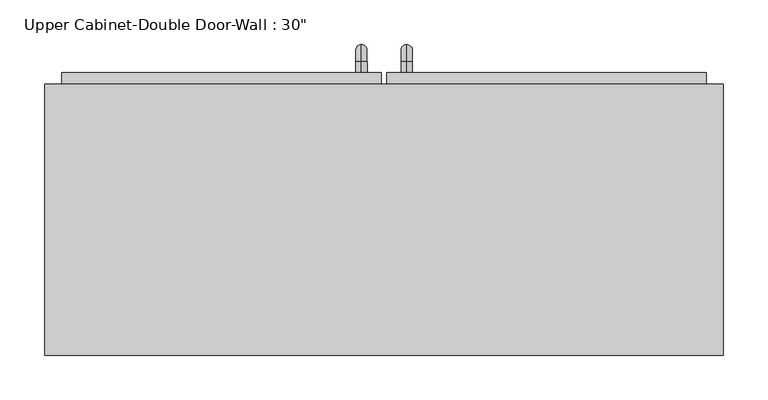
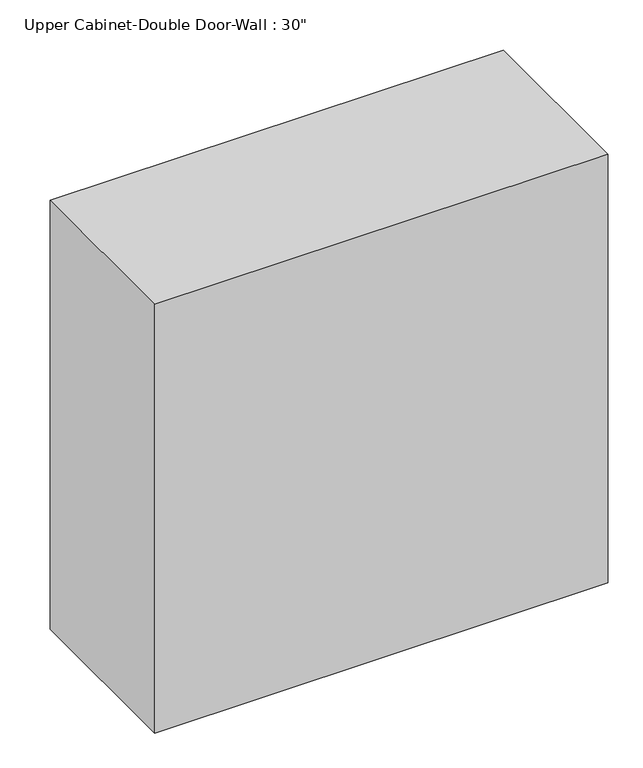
"""IFC4 building model written with IfcOpenShell, lengths in millimetres: furniture geometry."""

from ifc_helpers import new_model, si_unit, point, frame, origin, place, context, project, spatial, polyline, circle_curve, ellipse_curve, trimmed, outline, extrude, faceted_brep, source, transform, mapped, element, save
from ifc_brep_helpers import plane_surface, cylinder_surface, revolved_surface, advanced_brep


def furniture_b1f16c95(model_context):
    return source(origin(), model_context, "Body", "SolidModel", [
        faceted_brep([(-351.2288372, 57.15, 2133.6), (-351.2288372, 57.15, 1371.6), (410.7711628, 57.15, 1371.6), (410.7711628, 57.15, 2133.6), (-351.2288372, 361.95, 2133.6), (410.7711628, 361.95, 2133.6), (410.7711628, 361.95, 1371.6), (-351.2288372, 361.95, 1371.6), (-332.1788372, 361.95, 2114.55), (-332.1788372, 361.95, 1390.65), (391.7211628, 361.95, 1390.65), (391.7211628, 361.95, 2114.55), (391.7211628, 76.2, 2114.55), (-332.1788372, 76.2, 2114.55), (391.7211628, 76.2, 1390.65), (-332.1788372, 76.2, 1390.65)], [[[0, 1, 2, 3]], [[4, 5, 6, 7], [8, 9, 10, 11]], [[1, 0, 4, 7]], [[2, 1, 7, 6]], [[3, 2, 6, 5]], [[0, 3, 5, 4]], [[8, 11, 12, 13]], [[11, 10, 14, 12]], [[10, 9, 15, 14]], [[9, 8, 13, 15]], [[13, 12, 14, 15]]]),
        advanced_brep(
        [(55.1711628, 374.65, 1517.65), (55.1711628, 374.65, 1530.35), (55.1711628, 387.35, 1517.65), (55.1711628, 387.35, 1530.35), (55.1711628, 406.4, 1511.3), (55.1711628, 393.7, 1511.3), (55.1711628, 393.7, 1435.1), (55.1711628, 406.4, 1435.1), (55.1711628, 387.35, 1416.05), (55.1711628, 387.35, 1428.75), (55.1711628, 374.65, 1428.75), (55.1711628, 374.65, 1416.05)],
        [
            (0, 1, circle_curve(frame((55.1711628, 374.65, 1524.0), z_axis=(0.0, -1.0, 0.0), x_axis=(0.0, 0.0, -1.0)), 6.35)),
            (1, 0, circle_curve(frame((55.1711628, 374.65, 1524.0), z_axis=(0.0, -1.0, 0.0), x_axis=(0.0, 0.0, -1.0)), 6.35)),
            (0, 2),
            (2, 3, circle_curve(frame((55.1711628, 387.35, 1524.0), z_axis=(0.0, -1.0, 0.0), x_axis=(0.0, 0.0, -1.0)), 6.35)),
            (3, 1),
            (3, 2, circle_curve(frame((55.1711628, 387.35, 1524.0), z_axis=(0.0, -1.0, 0.0), x_axis=(0.0, 0.0, -1.0)), 6.35)),
            (4, 3, circle_curve(frame((55.1711628, 387.35, 1511.3), z_axis=(1.0, 0.0, 0.0), x_axis=(0.0, 0.0, 1.0)), 19.05)),
            (2, 5, circle_curve(frame((55.1711628, 387.35, 1511.3), z_axis=(-1.0, 0.0, 0.0), x_axis=(0.0, 0.0, 1.0)), 6.35)),
            (5, 4, circle_curve(frame((55.1711628, 400.05, 1511.3), z_axis=(0.0, 0.0, 1.0), x_axis=(0.0, -1.0, 0.0)), 6.35)),
            (4, 5, circle_curve(frame((55.1711628, 400.05, 1511.3), z_axis=(0.0, 0.0, 1.0), x_axis=(0.0, -1.0, 0.0)), 6.35)),
            (5, 6),
            (6, 7, circle_curve(frame((55.1711628, 400.05, 1435.1), z_axis=(0.0, 0.0, 1.0), x_axis=(0.0, -1.0, 0.0)), 6.35)),
            (7, 4),
            (7, 6, circle_curve(frame((55.1711628, 400.05, 1435.1), z_axis=(0.0, 0.0, 1.0), x_axis=(0.0, -1.0, 0.0)), 6.35)),
            (8, 7, circle_curve(frame((55.1711628, 387.35, 1435.1), z_axis=(1.0, 0.0, 0.0), x_axis=(0.0, 1.0, 0.0)), 19.05)),
            (6, 9, circle_curve(frame((55.1711628, 387.35, 1435.1), z_axis=(-1.0, 0.0, 0.0), x_axis=(0.0, 1.0, 0.0)), 6.35)),
            (9, 8, circle_curve(frame((55.1711628, 387.35, 1422.4), z_axis=(0.0, 1.0, 0.0), x_axis=(0.0, 0.0, 1.0)), 6.35)),
            (8, 9, circle_curve(frame((55.1711628, 387.35, 1422.4), z_axis=(0.0, 1.0, 0.0), x_axis=(0.0, 0.0, 1.0)), 6.35)),
            (10, 11, circle_curve(frame((55.1711628, 374.65, 1422.4), z_axis=(0.0, -1.0, 0.0), x_axis=(0.0, 0.0, 1.0)), 6.35)),
            (11, 10, circle_curve(frame((55.1711628, 374.65, 1422.4), z_axis=(0.0, -1.0, 0.0), x_axis=(0.0, 0.0, 1.0)), 6.35)),
            (9, 10),
            (11, 8),
        ],
        [
            plane_surface(frame((48.8211628, 374.65, 1524.0), z_axis=(0.0, -1.0, 0.0), x_axis=(0.0, 0.0, 1.0))),
            cylinder_surface(frame((55.1711628, 374.65, 1524.0), z_axis=(0.0, -1.0, 0.0), x_axis=(0.0, 0.0, -1.0)), 6.35),
            revolved_surface(trimmed(ellipse_curve(frame((55.1711628, 387.35, 1524.0), z_axis=(0.0, -1.0, 0.0), x_axis=(0.0, 0.0, -1.0)), 6.35, 6.35), [point((55.1711628, 387.35, 1517.65))], [point((55.1711628, 387.35, 1530.35))], True, "CARTESIAN"), (55.1711628, 387.35, 1511.3), (-1.0, 0.0, 0.0)),
            revolved_surface(trimmed(ellipse_curve(frame((55.1711628, 387.35, 1524.0), z_axis=(0.0, -1.0, 0.0), x_axis=(0.0, 0.0, -1.0)), 6.35, 6.35), [point((55.1711628, 387.35, 1530.35))], [point((55.1711628, 387.35, 1517.65))], True, "CARTESIAN"), (55.1711628, 387.35, 1511.3), (-1.0, 0.0, 0.0)),
            cylinder_surface(frame((55.1711628, 400.05, 1511.3), z_axis=(0.0, 0.0, 1.0), x_axis=(0.0, -1.0, 0.0)), 6.35),
            revolved_surface(trimmed(ellipse_curve(frame((55.1711628, 400.05, 1435.1), z_axis=(0.0, 0.0, 1.0), x_axis=(0.0, -1.0, 0.0)), 6.35, 6.35), [point((55.1711628, 393.7, 1435.1))], [point((55.1711628, 406.4, 1435.1))], True, "CARTESIAN"), (55.1711628, 387.35, 1435.1), (-1.0, 0.0, 0.0)),
            revolved_surface(trimmed(ellipse_curve(frame((55.1711628, 400.05, 1435.1), z_axis=(0.0, 0.0, 1.0), x_axis=(0.0, -1.0, 0.0)), 6.35, 6.35), [point((55.1711628, 406.4, 1435.1))], [point((55.1711628, 393.7, 1435.1))], True, "CARTESIAN"), (55.1711628, 387.35, 1435.1), (-1.0, 0.0, 0.0)),
            plane_surface(frame((48.8211628, 374.65, 1422.4), z_axis=(0.0, -1.0, 0.0), x_axis=(0.0, 0.0, -1.0))),
            cylinder_surface(frame((55.1711628, 387.35, 1422.4), z_axis=(0.0, 1.0, 0.0), x_axis=(0.0, 0.0, 1.0)), 6.35),
        ],
        [
            (0, [[1, 2]]),
            (1, [[-1, 3, 4, 5]]),
            (1, [[-2, -5, 6, -3]]),
            (2, [[7, -4, 8, 9]]),
            (3, [[-8, -6, -7, 10]]),
            (4, [[-9, 11, 12, 13]]),
            (4, [[-10, -13, 14, -11]]),
            (5, [[15, -12, 16, 17]]),
            (6, [[-16, -14, -15, 18]]),
            (7, [[19, 20]]),
            (8, [[-17, 21, -20, 22]]),
            (8, [[-18, -22, -19, -21]]),
        ],
    ),
        advanced_brep(
        [(4.3711628, 374.65, 1517.65), (4.3711628, 374.65, 1530.35), (4.3711628, 387.35, 1517.65), (4.3711628, 387.35, 1530.35), (4.3711628, 406.4, 1511.3), (4.3711628, 393.7, 1511.3), (4.3711628, 393.7, 1435.1), (4.3711628, 406.4, 1435.1), (4.3711628, 387.35, 1416.05), (4.3711628, 387.35, 1428.75), (4.3711628, 374.65, 1428.75), (4.3711628, 374.65, 1416.05)],
        [
            (0, 1, circle_curve(frame((4.3711628, 374.65, 1524.0), z_axis=(0.0, -1.0, 0.0), x_axis=(0.0, 0.0, 1.0)), 6.35)),
            (1, 0, circle_curve(frame((4.3711628, 374.65, 1524.0), z_axis=(0.0, -1.0, 0.0), x_axis=(0.0, 0.0, 1.0)), 6.35)),
            (0, 2),
            (2, 3, circle_curve(frame((4.3711628, 387.35, 1524.0), z_axis=(0.0, -1.0, 0.0), x_axis=(0.0, 0.0, 1.0)), 6.35)),
            (3, 1),
            (3, 2, circle_curve(frame((4.3711628, 387.35, 1524.0), z_axis=(0.0, -1.0, 0.0), x_axis=(0.0, 0.0, 1.0)), 6.35)),
            (4, 3, circle_curve(frame((4.3711628, 387.35, 1511.3), z_axis=(1.0, 0.0, 0.0), x_axis=(0.0, 0.0, 1.0)), 19.05)),
            (2, 5, circle_curve(frame((4.3711628, 387.35, 1511.3), z_axis=(-1.0, 0.0, 0.0), x_axis=(0.0, 0.0, 1.0)), 6.35)),
            (5, 4, circle_curve(frame((4.3711628, 400.05, 1511.3), z_axis=(0.0, 0.0, 1.0), x_axis=(0.0, 1.0, 0.0)), 6.35)),
            (4, 5, circle_curve(frame((4.3711628, 400.05, 1511.3), z_axis=(0.0, 0.0, 1.0), x_axis=(0.0, 1.0, 0.0)), 6.35)),
            (5, 6),
            (6, 7, circle_curve(frame((4.3711628, 400.05, 1435.1), z_axis=(0.0, 0.0, 1.0), x_axis=(0.0, 1.0, 0.0)), 6.35)),
            (7, 4),
            (7, 6, circle_curve(frame((4.3711628, 400.05, 1435.1), z_axis=(0.0, 0.0, 1.0), x_axis=(0.0, 1.0, 0.0)), 6.35)),
            (8, 7, circle_curve(frame((4.3711628, 387.35, 1435.1), z_axis=(1.0, 0.0, 0.0), x_axis=(0.0, 1.0, 0.0)), 19.05)),
            (6, 9, circle_curve(frame((4.3711628, 387.35, 1435.1), z_axis=(-1.0, 0.0, 0.0), x_axis=(0.0, 1.0, 0.0)), 6.35)),
            (9, 8, circle_curve(frame((4.3711628, 387.35, 1422.4), z_axis=(0.0, 1.0, 0.0), x_axis=(0.0, 0.0, -1.0)), 6.35)),
            (8, 9, circle_curve(frame((4.3711628, 387.35, 1422.4), z_axis=(0.0, 1.0, 0.0), x_axis=(0.0, 0.0, -1.0)), 6.35)),
            (10, 11, circle_curve(frame((4.3711628, 374.65, 1422.4), z_axis=(0.0, -1.0, 0.0), x_axis=(0.0, 0.0, -1.0)), 6.35)),
            (11, 10, circle_curve(frame((4.3711628, 374.65, 1422.4), z_axis=(0.0, -1.0, 0.0), x_axis=(0.0, 0.0, -1.0)), 6.35)),
            (9, 10),
            (11, 8),
        ],
        [
            plane_surface(frame((-1.9788372, 374.65, 1524.0), z_axis=(0.0, -1.0, 0.0), x_axis=(0.0, 0.0, 1.0))),
            cylinder_surface(frame((4.3711628, 374.65, 1524.0), z_axis=(0.0, -1.0, 0.0), x_axis=(0.0, 0.0, 1.0)), 6.35),
            revolved_surface(trimmed(ellipse_curve(frame((4.3711628, 387.35, 1524.0), z_axis=(0.0, -1.0, 0.0), x_axis=(0.0, 0.0, 1.0)), 6.35, 6.35), [point((4.3711628, 387.35, 1517.65))], [point((4.3711628, 387.35, 1530.35))], True, "CARTESIAN"), (4.3711628, 387.35, 1511.3), (-1.0, 0.0, 0.0)),
            revolved_surface(trimmed(ellipse_curve(frame((4.3711628, 387.35, 1524.0), z_axis=(0.0, -1.0, 0.0), x_axis=(0.0, 0.0, 1.0)), 6.35, 6.35), [point((4.3711628, 387.35, 1530.35))], [point((4.3711628, 387.35, 1517.65))], True, "CARTESIAN"), (4.3711628, 387.35, 1511.3), (-1.0, 0.0, 0.0)),
            cylinder_surface(frame((4.3711628, 400.05, 1511.3), z_axis=(0.0, 0.0, 1.0), x_axis=(0.0, 1.0, 0.0)), 6.35),
            revolved_surface(trimmed(ellipse_curve(frame((4.3711628, 400.05, 1435.1), z_axis=(0.0, 0.0, 1.0), x_axis=(0.0, 1.0, 0.0)), 6.35, 6.35), [point((4.3711628, 393.7, 1435.1))], [point((4.3711628, 406.4, 1435.1))], True, "CARTESIAN"), (4.3711628, 387.35, 1435.1), (-1.0, 0.0, 0.0)),
            revolved_surface(trimmed(ellipse_curve(frame((4.3711628, 400.05, 1435.1), z_axis=(0.0, 0.0, 1.0), x_axis=(0.0, 1.0, 0.0)), 6.35, 6.35), [point((4.3711628, 406.4, 1435.1))], [point((4.3711628, 393.7, 1435.1))], True, "CARTESIAN"), (4.3711628, 387.35, 1435.1), (-1.0, 0.0, 0.0)),
            plane_surface(frame((-1.9788372, 374.65, 1422.4), z_axis=(0.0, -1.0, 0.0), x_axis=(0.0, 0.0, -1.0))),
            cylinder_surface(frame((4.3711628, 387.35, 1422.4), z_axis=(0.0, 1.0, 0.0), x_axis=(0.0, 0.0, -1.0)), 6.35),
        ],
        [
            (0, [[1, 2]]),
            (1, [[-1, 3, 4, 5]]),
            (1, [[-2, -5, 6, -3]]),
            (2, [[7, -4, 8, 9]]),
            (3, [[-8, -6, -7, 10]]),
            (4, [[-9, 11, 12, 13]]),
            (4, [[-10, -13, 14, -11]]),
            (5, [[15, -12, 16, 17]]),
            (6, [[-16, -14, -15, 18]]),
            (7, [[19, 20]]),
            (8, [[-17, 21, -20, 22]]),
            (8, [[-18, -22, -19, -21]]),
        ],
    ),
        extrude(outline(polyline([(32.9461628, 374.65), (391.7211628, 374.65), (391.7211628, 342.9), (32.9461628, 342.9), (32.9461628, 374.65)])), frame((0.0, 0.0, 1390.65), z_axis=(0.0, 0.0, 1.0), x_axis=(1.0, 0.0, 0.0)), (0.0, 0.0, 1.0), 723.9),
        extrude(outline(polyline([(-332.1788372, 374.65), (26.5961628, 374.65), (26.5961628, 342.9), (-332.1788372, 342.9), (-332.1788372, 374.65)])), frame((0.0, 0.0, 1390.65), z_axis=(0.0, 0.0, 1.0), x_axis=(1.0, 0.0, 0.0)), (0.0, 0.0, 1.0), 723.9),
    ])


if __name__ == "__main__":
    model = new_model("IFC4")
    model_context = context("Model", 3, world=origin())
    ifc_project = project(units=[si_unit("LENGTHUNIT", "METRE", prefix="MILLI")], contexts=[model_context])
    site = spatial("IfcSite", under=ifc_project)
    building = spatial("IfcBuilding", under=site)
    placement = place(None, origin())
    furniture_shape = furniture_b1f16c95(model_context)
    element("IfcFurniture", 1, ObjectType="Upper Cabinet-Double Door-Wall : 30\"", at=placement, inside=building, context=model_context, shape_type="MappedRepresentation", body=[
        mapped(furniture_shape, transform((0.0, 0.0, 0.0), x_axis=(1.0, 0.0, 0.0), y_axis=(0.0, 1.0, 0.0), z_axis=(0.0, 0.0, 1.0))),
    ])
    save(model, "model.ifc")
